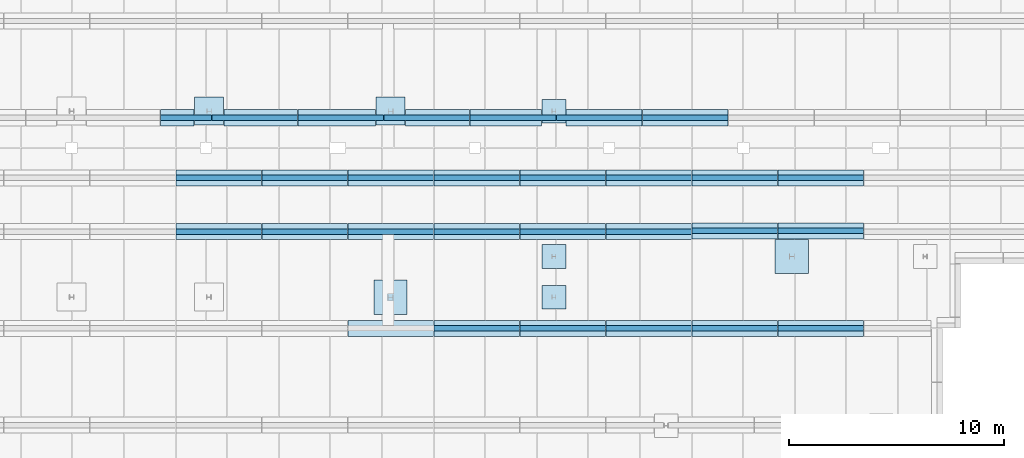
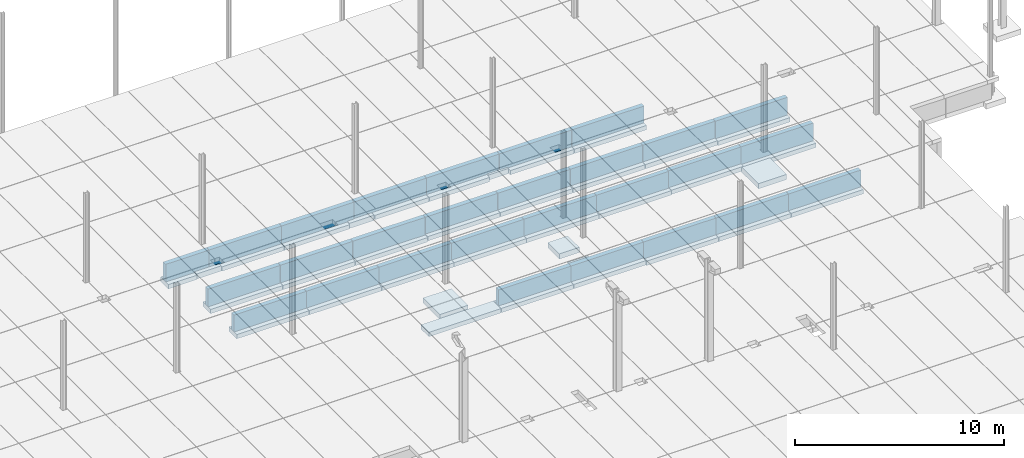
# One storey, part 9 of 59: 64 footings.
"""IFC2X3 building model written with IfcOpenShell, lengths in metres."""

from ifc_helpers import new_model, entity, si_unit, converted_unit, derived_unit, frame, frame_2d, origin, origin_with_axes, place, context, subcontext, project, spatial, polyline, rectangle, extrude, clip, bounded_halfspace, material, element, save


model = new_model("IFC2X3")

# Units and contexts
model_context = context("Model", 3, precision=1e-05, world=origin())
body_context = subcontext(model_context, "Body", "Model", "MODEL_VIEW")
ifc_project = project(units=[si_unit("LENGTHUNIT", "METRE"), si_unit("AREAUNIT", "SQUARE_METRE"), si_unit("VOLUMEUNIT", "CUBIC_METRE"), si_unit("MASSUNIT", "GRAM", prefix="KILO"), converted_unit("PLANEANGLEUNIT", "DEGREE", entity("IfcPlaneAngleMeasure", 0.0174532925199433), si_unit("PLANEANGLEUNIT", "RADIAN"), dimensions=[0, 0, 0, 0, 0, 0, 0]), derived_unit("THERMALTRANSMITTANCEUNIT", [(si_unit("POWERUNIT", "WATT"), 1), (si_unit("THERMODYNAMICTEMPERATUREUNIT", "KELVIN"), -1), (si_unit("LENGTHUNIT", "METRE"), -2)]), derived_unit("VOLUMETRICFLOWRATEUNIT", [(si_unit("LENGTHUNIT", "METRE"), 3), (converted_unit("TIMEUNIT", "hour", entity("IfcTimeMeasure", 3600.0), si_unit("TIMEUNIT", "SECOND"), dimensions=[0, 0, 1, 0, 0, 0, 0]), -1), (si_unit("LENGTHUNIT", "METRE"), -1)])], contexts=[model_context])

# Site, building, storey
site_placement = place(None, origin())
site = spatial("IfcSite", under=ifc_project, at=site_placement, Name="TWP_Speiseverteilzentrum SBW VZ II", CompositionType="ELEMENT")
building_placement = place(site_placement, origin())
building = spatial("IfcBuilding", under=site, at=building_placement, Name="Speiseverteilzentrum SBW VZ II", CompositionType="ELEMENT")
storey_placement = place(building_placement, frame((0.0, 0.0, 1.7307)))
storey = spatial("IfcBuildingStorey", under=building, at=storey_placement, Name="EG_Produktion_FFB", CompositionType="ELEMENT", Elevation=1.7307)

# Footings
ifc_material_1 = material(Name="Stahlbeton")
footing_1_placement = place(storey_placement, frame((61.4745010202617, 64.5445685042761, -1.75)))
element("IfcFooting", 1, at=footing_1_placement, inside=storey, material=ifc_material_1, Name="Stb.-Einzelfundament", ObjectType="COLUMN_FOUNDATION", PredefinedType="USERDEFINED", context=body_context, shape_type="SweptSolid", body=[
    extrude(rectangle(XDim=1.54999999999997, YDim=1.59999999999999, at=frame_2d((0.774999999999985, 0.799999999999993), x_axis=(1.0, 0.0))), origin_with_axes(), (0.0, 0.0, 1.0), 0.3),
])
ifc_material_2 = material(Name="Stahlbeton")
footing_2_placement = place(storey_placement, frame((50.6346046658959, 64.7945685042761, -2.2)))
element("IfcFooting", 2, at=footing_2_placement, inside=storey, material=ifc_material_2, Name="Stb.-Einzelfundament", ObjectType="COLUMN_FOUNDATION", PredefinedType="USERDEFINED", context=body_context, shape_type="SweptSolid", body=[
    extrude(rectangle(XDim=1.1, YDim=1.09999999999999, at=frame_2d((0.55, 0.549999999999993), x_axis=(1.0, 0.0))), origin_with_axes(), (0.0, 0.0, 1.0), 0.3),
])
ifc_material_3 = material(Name="Stahlbeton")
footing_3_placement = place(storey_placement, frame((50.6346046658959, 62.9074932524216, -2.2)))
element("IfcFooting", 3, at=footing_3_placement, inside=storey, material=ifc_material_3, Name="Stb.-Einzelfundament", ObjectType="COLUMN_FOUNDATION", PredefinedType="USERDEFINED", context=body_context, shape_type="SweptSolid", body=[
    extrude(rectangle(XDim=1.1, YDim=1.1, at=frame_2d((0.55, 0.55), x_axis=(1.0, 0.0))), origin_with_axes(), (0.0, 0.0, 1.0), 0.3),
])
ifc_material_4 = material(Name="Stahlbeton")
footing_4_placement = place(storey_placement, frame((42.8096804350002, 62.6574932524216, -1.7)))
element("IfcFooting", 4, at=footing_4_placement, inside=storey, material=ifc_material_4, Name="Stb.-Einzelfundament", ObjectType="COLUMN_FOUNDATION", PredefinedType="USERDEFINED", context=body_context, shape_type="SweptSolid", body=[
    extrude(rectangle(XDim=1.55, YDim=1.6, at=frame_2d((0.775, 0.8), x_axis=(1.0, 0.0))), origin_with_axes(), (0.0, 0.0, 1.0), 0.3),
])
ifc_material_5 = material(Name="Stahlbeton")
footing_5_placement = place(storey_placement, frame((34.4747596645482, 71.4595015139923, -1.75)))
element("IfcFooting", 5, at=footing_5_placement, inside=storey, material=ifc_material_5, Name="Stb.-Einzelfundament", ObjectType="COLUMN_FOUNDATION", PredefinedType="USERDEFINED", context=body_context, shape_type="Clipping", body=[
    clip(clip(extrude(rectangle(XDim=1.35, YDim=1.3, at=frame_2d((0.675, 0.65), x_axis=(1.0, 0.0))), origin_with_axes(), (0.0, 0.0, 1.0), 0.3), bounded_halfspace(frame((0.395, 0.340911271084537, 0.25), z_axis=(0.0, 0.0, -1.0), x_axis=(0.0, -1.0, 0.0)), True, origin_with_axes(), polyline([(0.0, 0.465911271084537), (0.0, 0.215911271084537), (0.790000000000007, 0.215911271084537), (0.790000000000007, 0.465911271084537), (0.0, 0.465911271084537)]))), bounded_halfspace(frame((1.08, 0.340911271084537, 0.25), z_axis=(0.0, 0.0, -1.0), x_axis=(0.0, -1.0, 0.0)), True, origin_with_axes(), polyline([(0.810000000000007, 0.465911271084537), (0.810000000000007, 0.215911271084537), (1.35, 0.215911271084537), (1.35, 0.465911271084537), (0.810000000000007, 0.465911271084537)]))),
])
ifc_material_6 = material(Name="Stahlbeton")
footing_6_placement = place(storey_placement, frame((42.9096804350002, 71.4595015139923, -1.75)))
element("IfcFooting", 6, at=footing_6_placement, inside=storey, material=ifc_material_6, Name="Stb.-Einzelfundament", ObjectType="COLUMN_FOUNDATION", PredefinedType="USERDEFINED", context=body_context, shape_type="Clipping", body=[
    clip(extrude(rectangle(XDim=1.35, YDim=1.3, at=frame_2d((0.675, 0.65), x_axis=(1.0, 0.0))), origin_with_axes(), (0.0, 0.0, 1.0), 0.3), bounded_halfspace(frame((0.177539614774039, 0.340911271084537, 0.25), z_axis=(0.0, 0.0, -1.0), x_axis=(0.0, -1.0, 0.0)), True, origin_with_axes(), polyline([(0.0, 0.465911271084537), (0.0, 0.215911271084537), (0.355079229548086, 0.215911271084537), (0.355079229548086, 0.465911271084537), (0.0, 0.465911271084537)]))),
])
ifc_material_7 = material(Name="Stahlbeton")
footing_7_placement = place(storey_placement, frame((50.6346046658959, 71.5595015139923, -1.7)))
element("IfcFooting", 7, at=footing_7_placement, inside=storey, material=ifc_material_7, Name="Stb.-Einzelfundament", ObjectType="COLUMN_FOUNDATION", PredefinedType="USERDEFINED", context=body_context, shape_type="Clipping", body=[
    clip(clip(extrude(rectangle(XDim=1.1, YDim=1.1, at=frame_2d((0.55, 0.55), x_axis=(1.0, 0.0))), origin_with_axes(), (0.0, 0.0, 1.0), 0.3), bounded_halfspace(frame((0.322697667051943, 0.240911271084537, 0.27), z_axis=(0.0, 0.0, -1.0), x_axis=(0.0, -1.0, 0.0)), True, origin_with_axes(), polyline([(0.0, 0.365911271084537), (0.0, 0.115911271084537), (0.645395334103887, 0.115911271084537), (0.645395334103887, 0.365911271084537), (0.0, 0.365911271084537)]))), bounded_halfspace(frame((0.882697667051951, 0.240911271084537, 0.25), z_axis=(0.0, 0.0, -1.0), x_axis=(0.0, -1.0, 0.0)), True, origin_with_axes(), polyline([(0.665395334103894, 0.365911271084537), (0.665395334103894, 0.115911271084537), (1.1, 0.115911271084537), (1.1, 0.365911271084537), (0.665395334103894, 0.365911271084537)]))),
])
ifc_material_8 = material(Name="Stahlbetonfertigteil")
footing_8_placement = place(storey_placement, frame((41.5999999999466, 61.6250000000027, -1.65)))
element("IfcFooting", 8, at=footing_8_placement, inside=storey, material=ifc_material_8, Name="Stahlbetonfertigteilfundament", PredefinedType="STRIP_FOOTING", context=body_context, shape_type="SweptSolid", body=[
    extrude(rectangle(XDim=0.75, YDim=0.25, at=frame_2d((0.375, 0.125), x_axis=(1.0, 0.0))), frame((0.0, 0.0, 0.0), z_axis=(1.0, 0.0, 0.0), x_axis=(0.0, 1.0, 0.0)), (0.0, 0.0, 1.0), 3.98),
])
ifc_material_9 = material(Name="Stahlbetonfertigteil")
footing_9_placement = place(storey_placement, frame((57.5999999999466, 61.8750000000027, -1.45)))
element("IfcFooting", 9, at=footing_9_placement, inside=storey, material=ifc_material_9, Name="Stahlbetonfertigteilfundament", PredefinedType="STRIP_FOOTING", context=body_context, shape_type="SweptSolid", body=[
    extrude(rectangle(XDim=0.25, YDim=0.98, at=frame_2d((0.125, 0.49), x_axis=(1.0, 0.0))), frame((0.0, 0.0, 0.0), z_axis=(1.0, 0.0, 0.0), x_axis=(0.0, 1.0, 0.0)), (0.0, 0.0, 1.0), 3.98),
])
ifc_material_10 = material(Name="Stahlbetonfertigteil")
footing_10_placement = place(storey_placement, frame((61.5999999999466, 61.8750000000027, -1.45)))
element("IfcFooting", 10, at=footing_10_placement, inside=storey, material=ifc_material_10, Name="Stahlbetonfertigteilfundament", PredefinedType="STRIP_FOOTING", context=body_context, shape_type="SweptSolid", body=[
    extrude(rectangle(XDim=0.25, YDim=0.98, at=frame_2d((0.125, 0.49), x_axis=(1.0, 0.0))), frame((0.0, 0.0, 0.0), z_axis=(1.0, 0.0, 0.0), x_axis=(0.0, 1.0, 0.0)), (0.0, 0.0, 1.0), 3.98),
])
ifc_material_11 = material(Name="Stahlbetonfertigteil")
footing_11_placement = place(storey_placement, frame((61.5999999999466, 61.6250000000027, -1.7)))
element("IfcFooting", 11, at=footing_11_placement, inside=storey, material=ifc_material_11, Name="Stahlbetonfertigteilfundament", PredefinedType="STRIP_FOOTING", context=body_context, shape_type="SweptSolid", body=[
    extrude(rectangle(XDim=0.75, YDim=0.25, at=frame_2d((0.375, 0.125), x_axis=(1.0, 0.0))), frame((0.0, 0.0, 0.0), z_axis=(1.0, 0.0, 0.0), x_axis=(0.0, 1.0, 0.0)), (0.0, 0.0, 1.0), 3.98),
])
ifc_material_12 = material(Name="Stahlbetonfertigteil")
footing_12_placement = place(storey_placement, frame((57.5999999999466, 61.6250000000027, -1.7)))
element("IfcFooting", 12, at=footing_12_placement, inside=storey, material=ifc_material_12, Name="Stahlbetonfertigteilfundament", PredefinedType="STRIP_FOOTING", context=body_context, shape_type="SweptSolid", body=[
    extrude(rectangle(XDim=0.75, YDim=0.25, at=frame_2d((0.375, 0.125), x_axis=(1.0, 0.0))), frame((0.0, 0.0, 0.0), z_axis=(1.0, 0.0, 0.0), x_axis=(0.0, 1.0, 0.0)), (0.0, 0.0, 1.0), 3.98),
])
ifc_material_13 = material(Name="Stahlbetonfertigteil")
footing_13_placement = place(storey_placement, frame((41.5999999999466, 66.3752063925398, -1.45)))
element("IfcFooting", 13, at=footing_13_placement, inside=storey, material=ifc_material_13, Name="Stahlbetonfertigteilfundament", PredefinedType="STRIP_FOOTING", context=body_context, shape_type="SweptSolid", body=[
    extrude(rectangle(XDim=0.25, YDim=0.98, at=frame_2d((0.125, 0.49), x_axis=(1.0, 0.0))), frame((0.0, 0.0, 0.0), z_axis=(1.0, 0.0, 0.0), x_axis=(0.0, 1.0, 0.0)), (0.0, 0.0, 1.0), 3.98),
])
ifc_material_14 = material(Name="Stahlbetonfertigteil")
footing_14_placement = place(storey_placement, frame((41.5999999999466, 66.1252063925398, -1.7)))
element("IfcFooting", 14, at=footing_14_placement, inside=storey, material=ifc_material_14, Name="Stahlbetonfertigteilfundament", PredefinedType="STRIP_FOOTING", context=body_context, shape_type="SweptSolid", body=[
    extrude(rectangle(XDim=0.75, YDim=0.25, at=frame_2d((0.375, 0.125), x_axis=(1.0, 0.0))), frame((0.0, 0.0, 0.0), z_axis=(1.0, 0.0, 0.0), x_axis=(0.0, 1.0, 0.0)), (0.0, 0.0, 1.0), 3.98),
])
ifc_material_15 = material(Name="Stahlbetonfertigteil")
footing_15_placement = place(storey_placement, frame((33.5999999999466, 66.3752063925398, -1.45)))
element("IfcFooting", 15, at=footing_15_placement, inside=storey, material=ifc_material_15, Name="Stahlbetonfertigteilfundament", PredefinedType="STRIP_FOOTING", context=body_context, shape_type="SweptSolid", body=[
    extrude(rectangle(XDim=0.25, YDim=0.98, at=frame_2d((0.125, 0.49), x_axis=(1.0, 0.0))), frame((0.0, 0.0, 0.0), z_axis=(1.0, 0.0, 0.0), x_axis=(0.0, 1.0, 0.0)), (0.0, 0.0, 1.0), 3.98),
])
ifc_material_16 = material(Name="Stahlbetonfertigteil")
footing_16_placement = place(storey_placement, frame((37.5999999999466, 66.3752063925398, -1.45)))
element("IfcFooting", 16, at=footing_16_placement, inside=storey, material=ifc_material_16, Name="Stahlbetonfertigteilfundament", PredefinedType="STRIP_FOOTING", context=body_context, shape_type="SweptSolid", body=[
    extrude(rectangle(XDim=0.25, YDim=0.98, at=frame_2d((0.125, 0.49), x_axis=(1.0, 0.0))), frame((0.0, 0.0, 0.0), z_axis=(1.0, 0.0, 0.0), x_axis=(0.0, 1.0, 0.0)), (0.0, 0.0, 1.0), 3.98),
])
ifc_material_17 = material(Name="Stahlbetonfertigteil")
footing_17_placement = place(storey_placement, frame((37.5999999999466, 66.1252063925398, -1.7)))
element("IfcFooting", 17, at=footing_17_placement, inside=storey, material=ifc_material_17, Name="Stahlbetonfertigteilfundament", PredefinedType="STRIP_FOOTING", context=body_context, shape_type="SweptSolid", body=[
    extrude(rectangle(XDim=0.75, YDim=0.25, at=frame_2d((0.375, 0.125), x_axis=(1.0, 0.0))), frame((0.0, 0.0, 0.0), z_axis=(1.0, 0.0, 0.0), x_axis=(0.0, 1.0, 0.0)), (0.0, 0.0, 1.0), 3.98),
])
ifc_material_18 = material(Name="Stahlbetonfertigteil")
footing_18_placement = place(storey_placement, frame((33.5999999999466, 66.1252063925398, -1.7)))
element("IfcFooting", 18, at=footing_18_placement, inside=storey, material=ifc_material_18, Name="Stahlbetonfertigteilfundament", PredefinedType="STRIP_FOOTING", context=body_context, shape_type="SweptSolid", body=[
    extrude(rectangle(XDim=0.75, YDim=0.25, at=frame_2d((0.375, 0.125), x_axis=(1.0, 0.0))), frame((0.0, 0.0, 0.0), z_axis=(1.0, 0.0, 0.0), x_axis=(0.0, 1.0, 0.0)), (0.0, 0.0, 1.0), 3.98),
])
ifc_material_19 = material(Name="Stahlbetonfertigteil")
footing_19_placement = place(storey_placement, frame((41.5999999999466, 68.8754127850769, -1.5)))
element("IfcFooting", 19, at=footing_19_placement, inside=storey, material=ifc_material_19, Name="Stahlbetonfertigteilfundament", PredefinedType="STRIP_FOOTING", context=body_context, shape_type="SweptSolid", body=[
    extrude(rectangle(XDim=0.25, YDim=1.03, at=frame_2d((0.125, 0.515), x_axis=(1.0, 0.0))), frame((0.0, 0.0, 0.0), z_axis=(1.0, 0.0, 0.0), x_axis=(0.0, 1.0, 0.0)), (0.0, 0.0, 1.0), 3.98),
])
ifc_material_20 = material(Name="Stahlbetonfertigteil")
footing_20_placement = place(storey_placement, frame((37.5999999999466, 68.8754127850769, -1.5)))
element("IfcFooting", 20, at=footing_20_placement, inside=storey, material=ifc_material_20, Name="Stahlbetonfertigteilfundament", PredefinedType="STRIP_FOOTING", context=body_context, shape_type="SweptSolid", body=[
    extrude(rectangle(XDim=0.25, YDim=1.03, at=frame_2d((0.125, 0.515), x_axis=(1.0, 0.0))), frame((0.0, 0.0, 0.0), z_axis=(1.0, 0.0, 0.0), x_axis=(0.0, 1.0, 0.0)), (0.0, 0.0, 1.0), 3.98),
])
ifc_material_21 = material(Name="Stahlbetonfertigteil")
footing_21_placement = place(storey_placement, frame((41.5999999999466, 68.6254127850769, -1.75)))
element("IfcFooting", 21, at=footing_21_placement, inside=storey, material=ifc_material_21, Name="Stahlbetonfertigteilfundament", PredefinedType="STRIP_FOOTING", context=body_context, shape_type="SweptSolid", body=[
    extrude(rectangle(XDim=0.75, YDim=0.25, at=frame_2d((0.375, 0.125), x_axis=(1.0, 0.0))), frame((0.0, 0.0, 0.0), z_axis=(1.0, 0.0, 0.0), x_axis=(0.0, 1.0, 0.0)), (0.0, 0.0, 1.0), 3.98),
])
ifc_material_22 = material(Name="Stahlbetonfertigteil")
footing_22_placement = place(storey_placement, frame((37.5999999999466, 68.6254127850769, -1.75)))
element("IfcFooting", 22, at=footing_22_placement, inside=storey, material=ifc_material_22, Name="Stahlbetonfertigteilfundament", PredefinedType="STRIP_FOOTING", context=body_context, shape_type="SweptSolid", body=[
    extrude(rectangle(XDim=0.75, YDim=0.25, at=frame_2d((0.375, 0.125), x_axis=(1.0, 0.0))), frame((0.0, 0.0, 0.0), z_axis=(1.0, 0.0, 0.0), x_axis=(0.0, 1.0, 0.0)), (0.0, 0.0, 1.0), 3.98),
])
ifc_material_23 = material(Name="Stahlbetonfertigteil")
footing_23_placement = place(storey_placement, frame((33.5999999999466, 68.8754127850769, -1.5)))
element("IfcFooting", 23, at=footing_23_placement, inside=storey, material=ifc_material_23, Name="Stahlbetonfertigteilfundament", PredefinedType="STRIP_FOOTING", context=body_context, shape_type="SweptSolid", body=[
    extrude(rectangle(XDim=0.25, YDim=1.03, at=frame_2d((0.125, 0.515), x_axis=(1.0, 0.0))), frame((0.0, 0.0, 0.0), z_axis=(1.0, 0.0, 0.0), x_axis=(0.0, 1.0, 0.0)), (0.0, 0.0, 1.0), 3.98),
])
ifc_material_24 = material(Name="Stahlbetonfertigteil")
footing_24_placement = place(storey_placement, frame((33.5999999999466, 68.6254127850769, -1.75)))
element("IfcFooting", 24, at=footing_24_placement, inside=storey, material=ifc_material_24, Name="Stahlbetonfertigteilfundament", PredefinedType="STRIP_FOOTING", context=body_context, shape_type="SweptSolid", body=[
    extrude(rectangle(XDim=0.75, YDim=0.25, at=frame_2d((0.375, 0.125), x_axis=(1.0, 0.0))), frame((0.0, 0.0, 0.0), z_axis=(1.0, 0.0, 0.0), x_axis=(0.0, 1.0, 0.0)), (0.0, 0.0, 1.0), 3.98),
])
ifc_material_25 = material(Name="Stahlbetonfertigteil")
footing_25_placement = place(storey_placement, frame((55.2999999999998, 71.4254127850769, -1.7)))
element("IfcFooting", 25, at=footing_25_placement, inside=storey, material=ifc_material_25, Name="Stahlbetonfertigteilfundament", PredefinedType="STRIP_FOOTING", context=body_context, shape_type="SweptSolid", body=[
    extrude(rectangle(XDim=0.75, YDim=0.25, at=frame_2d((0.375, 0.125), x_axis=(1.0, 0.0))), frame((0.0, 0.0, 0.0), z_axis=(1.0, 0.0, 0.0), x_axis=(0.0, 1.0, 0.0)), (0.0, 0.0, 1.0), 3.98),
])
ifc_material_26 = material(Name="Stahlbetonfertigteil")
footing_26_placement = place(storey_placement, frame((55.2999999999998, 71.6754127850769, -1.45)))
element("IfcFooting", 26, at=footing_26_placement, inside=storey, material=ifc_material_26, Name="Stahlbetonfertigteilfundament", PredefinedType="STRIP_FOOTING", context=body_context, shape_type="SweptSolid", body=[
    extrude(rectangle(XDim=0.25, YDim=0.98, at=frame_2d((0.125, 0.49), x_axis=(1.0, 0.0))), frame((0.0, 0.0, 0.0), z_axis=(1.0, 0.0, 0.0), x_axis=(0.0, 1.0, 0.0)), (0.0, 0.0, 1.0), 3.98),
])
ifc_material_27 = material(Name="Stahlbetonfertigteil")
footing_27_placement = place(storey_placement, frame((45.5999999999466, 61.6250000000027, -1.65)))
element("IfcFooting", 27, at=footing_27_placement, inside=storey, material=ifc_material_27, Name="Stahlbetonfertigteilfundament", PredefinedType="STRIP_FOOTING", context=body_context, shape_type="SweptSolid", body=[
    extrude(rectangle(XDim=0.75, YDim=0.25, at=frame_2d((0.375, 0.125), x_axis=(1.0, 0.0))), frame((0.0, 0.0, 0.0), z_axis=(1.0, 0.0, 0.0), x_axis=(0.0, 1.0, 0.0)), (0.0, 0.0, 1.0), 3.98),
])
ifc_material_28 = material(Name="Stahlbetonfertigteil")
footing_28_placement = place(storey_placement, frame((45.5999999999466, 61.8750000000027, -1.4)))
element("IfcFooting", 28, at=footing_28_placement, inside=storey, material=ifc_material_28, Name="Stahlbetonfertigteilfundament", PredefinedType="STRIP_FOOTING", context=body_context, shape_type="SweptSolid", body=[
    extrude(rectangle(XDim=0.25, YDim=0.93, at=frame_2d((0.125, 0.465), x_axis=(1.0, 0.0))), frame((0.0, 0.0, 0.0), z_axis=(1.0, 0.0, 0.0), x_axis=(0.0, 1.0, 0.0)), (0.0, 0.0, 1.0), 3.98),
])
ifc_material_29 = material(Name="Stahlbetonfertigteil")
footing_29_placement = place(storey_placement, frame((49.5999999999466, 61.6250000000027, -1.65)))
element("IfcFooting", 29, at=footing_29_placement, inside=storey, material=ifc_material_29, Name="Stahlbetonfertigteilfundament", PredefinedType="STRIP_FOOTING", context=body_context, shape_type="SweptSolid", body=[
    extrude(rectangle(XDim=0.75, YDim=0.25, at=frame_2d((0.375, 0.125), x_axis=(1.0, 0.0))), frame((0.0, 0.0, 0.0), z_axis=(1.0, 0.0, 0.0), x_axis=(0.0, 1.0, 0.0)), (0.0, 0.0, 1.0), 3.98),
])
ifc_material_30 = material(Name="Stahlbetonfertigteil")
footing_30_placement = place(storey_placement, frame((49.5999999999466, 61.8750000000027, -1.4)))
element("IfcFooting", 30, at=footing_30_placement, inside=storey, material=ifc_material_30, Name="Stahlbetonfertigteilfundament", PredefinedType="STRIP_FOOTING", context=body_context, shape_type="SweptSolid", body=[
    extrude(rectangle(XDim=0.25, YDim=0.93, at=frame_2d((0.125, 0.465), x_axis=(1.0, 0.0))), frame((0.0, 0.0, 0.0), z_axis=(1.0, 0.0, 0.0), x_axis=(0.0, 1.0, 0.0)), (0.0, 0.0, 1.0), 3.98),
])
ifc_material_31 = material(Name="Stahlbetonfertigteil")
footing_31_placement = place(storey_placement, frame((53.5999999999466, 61.6250000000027, -1.7)))
element("IfcFooting", 31, at=footing_31_placement, inside=storey, material=ifc_material_31, Name="Stahlbetonfertigteilfundament", PredefinedType="STRIP_FOOTING", context=body_context, shape_type="SweptSolid", body=[
    extrude(rectangle(XDim=0.75, YDim=0.25, at=frame_2d((0.375, 0.125), x_axis=(1.0, 0.0))), frame((0.0, 0.0, 0.0), z_axis=(1.0, 0.0, 0.0), x_axis=(0.0, 1.0, 0.0)), (0.0, 0.0, 1.0), 3.98),
])
ifc_material_32 = material(Name="Stahlbetonfertigteil")
footing_32_placement = place(storey_placement, frame((53.5999999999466, 61.8750000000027, -1.45)))
element("IfcFooting", 32, at=footing_32_placement, inside=storey, material=ifc_material_32, Name="Stahlbetonfertigteilfundament", PredefinedType="STRIP_FOOTING", context=body_context, shape_type="SweptSolid", body=[
    extrude(rectangle(XDim=0.25, YDim=0.98, at=frame_2d((0.125, 0.49), x_axis=(1.0, 0.0))), frame((0.0, 0.0, 0.0), z_axis=(1.0, 0.0, 0.0), x_axis=(0.0, 1.0, 0.0)), (0.0, 0.0, 1.0), 3.98),
])
ifc_material_33 = material(Name="Stahlbetonfertigteil")
footing_33_placement = place(storey_placement, frame((45.5999999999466, 68.8754127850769, -1.45)))
element("IfcFooting", 33, at=footing_33_placement, inside=storey, material=ifc_material_33, Name="Stahlbetonfertigteilfundament", PredefinedType="STRIP_FOOTING", context=body_context, shape_type="SweptSolid", body=[
    extrude(rectangle(XDim=0.25, YDim=0.98, at=frame_2d((0.125, 0.49), x_axis=(1.0, 0.0))), frame((0.0, 0.0, 0.0), z_axis=(1.0, 0.0, 0.0), x_axis=(0.0, 1.0, 0.0)), (0.0, 0.0, 1.0), 3.98),
])
ifc_material_34 = material(Name="Stahlbetonfertigteil")
footing_34_placement = place(storey_placement, frame((45.5999999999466, 68.6254127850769, -1.7)))
element("IfcFooting", 34, at=footing_34_placement, inside=storey, material=ifc_material_34, Name="Stahlbetonfertigteilfundament", PredefinedType="STRIP_FOOTING", context=body_context, shape_type="SweptSolid", body=[
    extrude(rectangle(XDim=0.75, YDim=0.25, at=frame_2d((0.375, 0.125), x_axis=(1.0, 0.0))), frame((0.0, 0.0, 0.0), z_axis=(1.0, 0.0, 0.0), x_axis=(0.0, 1.0, 0.0)), (0.0, 0.0, 1.0), 3.98),
])
ifc_material_35 = material(Name="Stahlbetonfertigteil")
footing_35_placement = place(storey_placement, frame((45.5999999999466, 66.3752063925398, -1.45)))
element("IfcFooting", 35, at=footing_35_placement, inside=storey, material=ifc_material_35, Name="Stahlbetonfertigteilfundament", PredefinedType="STRIP_FOOTING", context=body_context, shape_type="SweptSolid", body=[
    extrude(rectangle(XDim=0.25, YDim=0.98, at=frame_2d((0.125, 0.49), x_axis=(1.0, 0.0))), frame((0.0, 0.0, 0.0), z_axis=(1.0, 0.0, 0.0), x_axis=(0.0, 1.0, 0.0)), (0.0, 0.0, 1.0), 3.98),
])
ifc_material_36 = material(Name="Stahlbetonfertigteil")
footing_36_placement = place(storey_placement, frame((45.5999999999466, 66.1252063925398, -1.7)))
element("IfcFooting", 36, at=footing_36_placement, inside=storey, material=ifc_material_36, Name="Stahlbetonfertigteilfundament", PredefinedType="STRIP_FOOTING", context=body_context, shape_type="SweptSolid", body=[
    extrude(rectangle(XDim=0.75, YDim=0.25, at=frame_2d((0.375, 0.125), x_axis=(1.0, 0.0))), frame((0.0, 0.0, 0.0), z_axis=(1.0, 0.0, 0.0), x_axis=(0.0, 1.0, 0.0)), (0.0, 0.0, 1.0), 3.98),
])
ifc_material_37 = material(Name="Stahlbetonfertigteil")
footing_37_placement = place(storey_placement, frame((49.5999999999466, 68.8754127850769, -1.45)))
element("IfcFooting", 37, at=footing_37_placement, inside=storey, material=ifc_material_37, Name="Stahlbetonfertigteilfundament", PredefinedType="STRIP_FOOTING", context=body_context, shape_type="SweptSolid", body=[
    extrude(rectangle(XDim=0.25, YDim=0.98, at=frame_2d((0.125, 0.49), x_axis=(1.0, 0.0))), frame((0.0, 0.0, 0.0), z_axis=(1.0, 0.0, 0.0), x_axis=(0.0, 1.0, 0.0)), (0.0, 0.0, 1.0), 3.98),
])
ifc_material_38 = material(Name="Stahlbetonfertigteil")
footing_38_placement = place(storey_placement, frame((49.5999999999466, 68.6254127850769, -1.7)))
element("IfcFooting", 38, at=footing_38_placement, inside=storey, material=ifc_material_38, Name="Stahlbetonfertigteilfundament", PredefinedType="STRIP_FOOTING", context=body_context, shape_type="SweptSolid", body=[
    extrude(rectangle(XDim=0.75, YDim=0.25, at=frame_2d((0.375, 0.125), x_axis=(1.0, 0.0))), frame((0.0, 0.0, 0.0), z_axis=(1.0, 0.0, 0.0), x_axis=(0.0, 1.0, 0.0)), (0.0, 0.0, 1.0), 3.98),
])
ifc_material_39 = material(Name="Stahlbetonfertigteil")
footing_39_placement = place(storey_placement, frame((49.5999999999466, 66.3752063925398, -1.45)))
element("IfcFooting", 39, at=footing_39_placement, inside=storey, material=ifc_material_39, Name="Stahlbetonfertigteilfundament", PredefinedType="STRIP_FOOTING", context=body_context, shape_type="SweptSolid", body=[
    extrude(rectangle(XDim=0.25, YDim=0.98, at=frame_2d((0.125, 0.49), x_axis=(1.0, 0.0))), frame((0.0, 0.0, 0.0), z_axis=(1.0, 0.0, 0.0), x_axis=(0.0, 1.0, 0.0)), (0.0, 0.0, 1.0), 3.98),
])
ifc_material_40 = material(Name="Stahlbetonfertigteil")
footing_40_placement = place(storey_placement, frame((49.5999999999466, 66.1252063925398, -1.7)))
element("IfcFooting", 40, at=footing_40_placement, inside=storey, material=ifc_material_40, Name="Stahlbetonfertigteilfundament", PredefinedType="STRIP_FOOTING", context=body_context, shape_type="SweptSolid", body=[
    extrude(rectangle(XDim=0.75, YDim=0.25, at=frame_2d((0.375, 0.125), x_axis=(1.0, 0.0))), frame((0.0, 0.0, 0.0), z_axis=(1.0, 0.0, 0.0), x_axis=(0.0, 1.0, 0.0)), (0.0, 0.0, 1.0), 3.98),
])
ifc_material_41 = material(Name="Stahlbetonfertigteil")
footing_41_placement = place(storey_placement, frame((53.5999999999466, 66.3752063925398, -1.45)))
element("IfcFooting", 41, at=footing_41_placement, inside=storey, material=ifc_material_41, Name="Stahlbetonfertigteilfundament", PredefinedType="STRIP_FOOTING", context=body_context, shape_type="SweptSolid", body=[
    extrude(rectangle(XDim=0.25, YDim=0.98, at=frame_2d((0.125, 0.49), x_axis=(1.0, 0.0))), frame((0.0, 0.0, 0.0), z_axis=(1.0, 0.0, 0.0), x_axis=(0.0, 1.0, 0.0)), (0.0, 0.0, 1.0), 3.98),
])
ifc_material_42 = material(Name="Stahlbetonfertigteil")
footing_42_placement = place(storey_placement, frame((53.5999999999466, 66.1252063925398, -1.7)))
element("IfcFooting", 42, at=footing_42_placement, inside=storey, material=ifc_material_42, Name="Stahlbetonfertigteilfundament", PredefinedType="STRIP_FOOTING", context=body_context, shape_type="SweptSolid", body=[
    extrude(rectangle(XDim=0.75, YDim=0.25, at=frame_2d((0.375, 0.125), x_axis=(1.0, 0.0))), frame((0.0, 0.0, 0.0), z_axis=(1.0, 0.0, 0.0), x_axis=(0.0, 1.0, 0.0)), (0.0, 0.0, 1.0), 3.98),
])
ifc_material_43 = material(Name="Stahlbetonfertigteil")
footing_43_placement = place(storey_placement, frame((53.5999999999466, 68.8754127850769, -1.45)))
element("IfcFooting", 43, at=footing_43_placement, inside=storey, material=ifc_material_43, Name="Stahlbetonfertigteilfundament", PredefinedType="STRIP_FOOTING", context=body_context, shape_type="SweptSolid", body=[
    extrude(rectangle(XDim=0.25, YDim=0.98, at=frame_2d((0.125, 0.49), x_axis=(1.0, 0.0))), frame((0.0, 0.0, 0.0), z_axis=(1.0, 0.0, 0.0), x_axis=(0.0, 1.0, 0.0)), (0.0, 0.0, 1.0), 3.98),
])
ifc_material_44 = material(Name="Stahlbetonfertigteil")
footing_44_placement = place(storey_placement, frame((53.5999999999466, 68.6254127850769, -1.7)))
element("IfcFooting", 44, at=footing_44_placement, inside=storey, material=ifc_material_44, Name="Stahlbetonfertigteilfundament", PredefinedType="STRIP_FOOTING", context=body_context, shape_type="SweptSolid", body=[
    extrude(rectangle(XDim=0.75, YDim=0.25, at=frame_2d((0.375, 0.125), x_axis=(1.0, 0.0))), frame((0.0, 0.0, 0.0), z_axis=(1.0, 0.0, 0.0), x_axis=(0.0, 1.0, 0.0)), (0.0, 0.0, 1.0), 3.98),
])
ifc_material_45 = material(Name="Stahlbetonfertigteil")
footing_45_placement = place(storey_placement, frame((61.5999999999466, 68.6254127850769, -1.75)))
element("IfcFooting", 45, at=footing_45_placement, inside=storey, material=ifc_material_45, Name="Stahlbetonfertigteilfundament", PredefinedType="STRIP_FOOTING", context=body_context, shape_type="SweptSolid", body=[
    extrude(rectangle(XDim=0.75, YDim=0.25, at=frame_2d((0.375, 0.125), x_axis=(1.0, 0.0))), frame((0.0, 0.0, 0.0), z_axis=(1.0, 0.0, 0.0), x_axis=(0.0, 1.0, 0.0)), (0.0, 0.0, 1.0), 3.98),
])
ifc_material_46 = material(Name="Stahlbetonfertigteil")
footing_46_placement = place(storey_placement, frame((61.5999999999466, 68.8754127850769, -1.5)))
element("IfcFooting", 46, at=footing_46_placement, inside=storey, material=ifc_material_46, Name="Stahlbetonfertigteilfundament", PredefinedType="STRIP_FOOTING", context=body_context, shape_type="SweptSolid", body=[
    extrude(rectangle(XDim=0.25, YDim=1.03, at=frame_2d((0.125, 0.515), x_axis=(1.0, 0.0))), frame((0.0, 0.0, 0.0), z_axis=(1.0, 0.0, 0.0), x_axis=(0.0, 1.0, 0.0)), (0.0, 0.0, 1.0), 3.98),
])
ifc_material_47 = material(Name="Stahlbetonfertigteil")
footing_47_placement = place(storey_placement, frame((61.5999999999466, 66.1599999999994, -1.75)))
element("IfcFooting", 47, at=footing_47_placement, inside=storey, material=ifc_material_47, Name="Stahlbetonfertigteilfundament", PredefinedType="STRIP_FOOTING", context=body_context, shape_type="SweptSolid", body=[
    extrude(rectangle(XDim=0.75, YDim=0.25, at=frame_2d((0.375, 0.125), x_axis=(1.0, 0.0))), frame((0.0, 0.0, 0.0), z_axis=(1.0, 0.0, 0.0), x_axis=(0.0, 1.0, 0.0)), (0.0, 0.0, 1.0), 3.98),
])
ifc_material_48 = material(Name="Stahlbetonfertigteil")
footing_48_placement = place(storey_placement, frame((61.5999999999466, 66.4099999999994, -1.5)))
element("IfcFooting", 48, at=footing_48_placement, inside=storey, material=ifc_material_48, Name="Stahlbetonfertigteilfundament", PredefinedType="STRIP_FOOTING", context=body_context, shape_type="SweptSolid", body=[
    extrude(rectangle(XDim=0.25, YDim=1.03, at=frame_2d((0.125, 0.515), x_axis=(1.0, 0.0))), frame((0.0, 0.0, 0.0), z_axis=(1.0, 0.0, 0.0), x_axis=(0.0, 1.0, 0.0)), (0.0, 0.0, 1.0), 3.98),
])
ifc_material_49 = material(Name="Stahlbetonfertigteil")
footing_49_placement = place(storey_placement, frame((57.5999999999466, 68.8754127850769, -1.45)))
element("IfcFooting", 49, at=footing_49_placement, inside=storey, material=ifc_material_49, Name="Stahlbetonfertigteilfundament", PredefinedType="STRIP_FOOTING", context=body_context, shape_type="SweptSolid", body=[
    extrude(rectangle(XDim=0.25, YDim=0.98, at=frame_2d((0.125, 0.49), x_axis=(1.0, 0.0))), frame((0.0, 0.0, 0.0), z_axis=(1.0, 0.0, 0.0), x_axis=(0.0, 1.0, 0.0)), (0.0, 0.0, 1.0), 3.98),
])
ifc_material_50 = material(Name="Stahlbetonfertigteil")
footing_50_placement = place(storey_placement, frame((57.5999999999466, 68.6254127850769, -1.7)))
element("IfcFooting", 50, at=footing_50_placement, inside=storey, material=ifc_material_50, Name="Stahlbetonfertigteilfundament", PredefinedType="STRIP_FOOTING", context=body_context, shape_type="SweptSolid", body=[
    extrude(rectangle(XDim=0.75, YDim=0.25, at=frame_2d((0.375, 0.125), x_axis=(1.0, 0.0))), frame((0.0, 0.0, 0.0), z_axis=(1.0, 0.0, 0.0), x_axis=(0.0, 1.0, 0.0)), (0.0, 0.0, 1.0), 3.98),
])
ifc_material_51 = material(Name="Stahlbetonfertigteil")
footing_51_placement = place(storey_placement, frame((57.5999999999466, 66.4099999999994, -1.45)))
element("IfcFooting", 51, at=footing_51_placement, inside=storey, material=ifc_material_51, Name="Stahlbetonfertigteilfundament", PredefinedType="STRIP_FOOTING", context=body_context, shape_type="SweptSolid", body=[
    extrude(rectangle(XDim=0.25, YDim=0.98, at=frame_2d((0.125, 0.49), x_axis=(1.0, 0.0))), frame((0.0, 0.0, 0.0), z_axis=(1.0, 0.0, 0.0), x_axis=(0.0, 1.0, 0.0)), (0.0, 0.0, 1.0), 3.98),
])
ifc_material_52 = material(Name="Stahlbetonfertigteil")
footing_52_placement = place(storey_placement, frame((57.5999999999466, 66.1599999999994, -1.7)))
element("IfcFooting", 52, at=footing_52_placement, inside=storey, material=ifc_material_52, Name="Stahlbetonfertigteilfundament", PredefinedType="STRIP_FOOTING", context=body_context, shape_type="SweptSolid", body=[
    extrude(rectangle(XDim=0.75, YDim=0.25, at=frame_2d((0.375, 0.125), x_axis=(1.0, 0.0))), frame((0.0, 0.0, 0.0), z_axis=(1.0, 0.0, 0.0), x_axis=(0.0, 1.0, 0.0)), (0.0, 0.0, 1.0), 3.98),
])
ifc_material_53 = material(Name="Stahlbetonfertigteil")
footing_53_placement = place(storey_placement, frame((51.7546046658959, 71.4254127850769, -1.7)))
element("IfcFooting", 53, at=footing_53_placement, inside=storey, material=ifc_material_53, Name="Stahlbetonfertigteilfundament", PredefinedType="STRIP_FOOTING", context=body_context, shape_type="SweptSolid", body=[
    extrude(rectangle(XDim=0.75, YDim=0.25, at=frame_2d((0.375, 0.125), x_axis=(1.0, 0.0))), frame((0.0, 0.0, 0.0), z_axis=(1.0, 0.0, 0.0), x_axis=(0.0, 1.0, 0.0)), (0.0, 0.0, 1.0), 3.52539533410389),
])
ifc_material_54 = material(Name="Stahlbetonfertigteil")
footing_54_placement = place(storey_placement, frame((47.284649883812, 71.4254127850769, -1.7)))
element("IfcFooting", 54, at=footing_54_placement, inside=storey, material=ifc_material_54, Name="Stahlbetonfertigteilfundament", PredefinedType="STRIP_FOOTING", context=body_context, shape_type="SweptSolid", body=[
    extrude(rectangle(XDim=0.75, YDim=0.25, at=frame_2d((0.375, 0.125), x_axis=(1.0, 0.0))), frame((0.0, 0.0, 0.0), z_axis=(1.0, 0.0, 0.0), x_axis=(0.0, 1.0, 0.0)), (0.0, 0.0, 1.0), 3.32995478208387),
])
ifc_material_55 = material(Name="Stahlbetonfertigteil")
footing_55_placement = place(storey_placement, frame((44.2796804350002, 71.4254127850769, -1.7)))
element("IfcFooting", 55, at=footing_55_placement, inside=storey, material=ifc_material_55, Name="Stahlbetonfertigteilfundament", PredefinedType="STRIP_FOOTING", context=body_context, shape_type="SweptSolid", body=[
    extrude(rectangle(XDim=0.75, YDim=0.25, at=frame_2d((0.375, 0.125), x_axis=(1.0, 0.0))), frame((0.0, 0.0, 0.0), z_axis=(1.0, 0.0, 0.0), x_axis=(0.0, 1.0, 0.0)), (0.0, 0.0, 1.0), 2.98496944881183),
])
ifc_material_56 = material(Name="Stahlbetonfertigteil")
footing_56_placement = place(storey_placement, frame((39.2847596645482, 71.4254127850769, -1.75)))
element("IfcFooting", 56, at=footing_56_placement, inside=storey, material=ifc_material_56, Name="Stahlbetonfertigteilfundament", PredefinedType="STRIP_FOOTING", context=body_context, shape_type="SweptSolid", body=[
    extrude(rectangle(XDim=0.75, YDim=0.25, at=frame_2d((0.375, 0.125), x_axis=(1.0, 0.0))), frame((0.0, 0.0, 0.0), z_axis=(1.0, 0.0, 0.0), x_axis=(0.0, 1.0, 0.0)), (0.0, 0.0, 1.0), 3.60492077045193),
])
ifc_material_57 = material(Name="Stahlbetonfertigteil")
footing_57_placement = place(storey_placement, frame((35.8447596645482, 71.4254127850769, -1.75)))
element("IfcFooting", 57, at=footing_57_placement, inside=storey, material=ifc_material_57, Name="Stahlbetonfertigteilfundament", PredefinedType="STRIP_FOOTING", context=body_context, shape_type="SweptSolid", body=[
    extrude(rectangle(XDim=0.75, YDim=0.25, at=frame_2d((0.375, 0.125), x_axis=(1.0, 0.0))), frame((0.0, 0.0, 0.0), z_axis=(1.0, 0.0, 0.0), x_axis=(0.0, 1.0, 0.0)), (0.0, 0.0, 1.0), 3.42),
])
ifc_material_58 = material(Name="Stahlbetonfertigteil")
footing_58_placement = place(storey_placement, frame((32.8885, 71.4254127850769, -1.75)))
element("IfcFooting", 58, at=footing_58_placement, inside=storey, material=ifc_material_58, Name="Stahlbetonfertigteilfundament", PredefinedType="STRIP_FOOTING", context=body_context, shape_type="SweptSolid", body=[
    extrude(rectangle(XDim=0.75, YDim=0.25, at=frame_2d((0.375, 0.125), x_axis=(1.0, 0.0))), frame((0.0, 0.0, 0.0), z_axis=(1.0, 0.0, 0.0), x_axis=(0.0, 1.0, 0.0)), (0.0, 0.0, 1.0), 1.56625966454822),
])
ifc_material_59 = material(Name="Stahlbetonfertigteil")
footing_59_placement = place(storey_placement, frame((43.284649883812, 71.6754127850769, -1.43)))
element("IfcFooting", 59, at=footing_59_placement, inside=storey, material=ifc_material_59, Name="Stahlbetonfertigteilfundament", PredefinedType="STRIP_FOOTING", context=body_context, shape_type="SweptSolid", body=[
    extrude(rectangle(XDim=0.25, YDim=0.96, at=frame_2d((0.125, 0.48), x_axis=(1.0, 0.0))), frame((0.0, 0.0, 0.0), z_axis=(1.0, 0.0, 0.0), x_axis=(0.0, 1.0, 0.0)), (0.0, 0.0, 1.0), 3.98),
])
ifc_material_60 = material(Name="Stahlbetonfertigteil")
footing_60_placement = place(storey_placement, frame((35.2847596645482, 71.6754127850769, -1.5)))
element("IfcFooting", 60, at=footing_60_placement, inside=storey, material=ifc_material_60, Name="Stahlbetonfertigteilfundament", PredefinedType="STRIP_FOOTING", context=body_context, shape_type="SweptSolid", body=[
    extrude(rectangle(XDim=0.25, YDim=1.03, at=frame_2d((0.125, 0.515), x_axis=(1.0, 0.0))), frame((0.0, 0.0, 0.0), z_axis=(1.0, 0.0, 0.0), x_axis=(0.0, 1.0, 0.0)), (0.0, 0.0, 1.0), 3.98),
])
ifc_material_61 = material(Name="Stahlbetonfertigteil")
footing_61_placement = place(storey_placement, frame((32.8885, 71.6754127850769, -1.5)))
element("IfcFooting", 61, at=footing_61_placement, inside=storey, material=ifc_material_61, Name="Stahlbetonfertigteilfundament", PredefinedType="STRIP_FOOTING", context=body_context, shape_type="SweptSolid", body=[
    extrude(rectangle(XDim=0.25, YDim=1.03, at=frame_2d((0.125, 0.515), x_axis=(1.0, 0.0))), frame((0.0, 0.0, 0.0), z_axis=(1.0, 0.0, 0.0), x_axis=(0.0, 1.0, 0.0)), (0.0, 0.0, 1.0), 2.37625966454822),
])
ifc_material_62 = material(Name="Stahlbetonfertigteil")
footing_62_placement = place(storey_placement, frame((39.2847596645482, 71.6754127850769, -1.5)))
element("IfcFooting", 62, at=footing_62_placement, inside=storey, material=ifc_material_62, Name="Stahlbetonfertigteilfundament", PredefinedType="STRIP_FOOTING", context=body_context, shape_type="SweptSolid", body=[
    extrude(rectangle(XDim=0.25, YDim=1.03, at=frame_2d((0.125, 0.515), x_axis=(1.0, 0.0))), frame((0.0, 0.0, 0.0), z_axis=(1.0, 0.0, 0.0), x_axis=(0.0, 1.0, 0.0)), (0.0, 0.0, 1.0), 3.98),
])
ifc_material_63 = material(Name="Stahlbetonfertigteil")
footing_63_placement = place(storey_placement, frame((51.2999999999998, 71.6754127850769, -1.45)))
element("IfcFooting", 63, at=footing_63_placement, inside=storey, material=ifc_material_63, Name="Stahlbetonfertigteilfundament", PredefinedType="STRIP_FOOTING", context=body_context, shape_type="SweptSolid", body=[
    extrude(rectangle(XDim=0.25, YDim=0.98, at=frame_2d((0.125, 0.49), x_axis=(1.0, 0.0))), frame((0.0, 0.0, 0.0), z_axis=(1.0, 0.0, 0.0), x_axis=(0.0, 1.0, 0.0)), (0.0, 0.0, 1.0), 3.98000000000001),
])
ifc_material_64 = material(Name="Stahlbetonfertigteil")
footing_64_placement = place(storey_placement, frame((47.284649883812, 71.6754127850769, -1.43)))
element("IfcFooting", 64, at=footing_64_placement, inside=storey, material=ifc_material_64, Name="Stahlbetonfertigteilfundament", PredefinedType="STRIP_FOOTING", context=body_context, shape_type="SweptSolid", body=[
    extrude(rectangle(XDim=0.25, YDim=0.96, at=frame_2d((0.125, 0.48), x_axis=(1.0, 0.0))), frame((0.0, 0.0, 0.0), z_axis=(1.0, 0.0, 0.0), x_axis=(0.0, 1.0, 0.0)), (0.0, 0.0, 1.0), 3.99535011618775),
])

save(model, "model.ifc")
